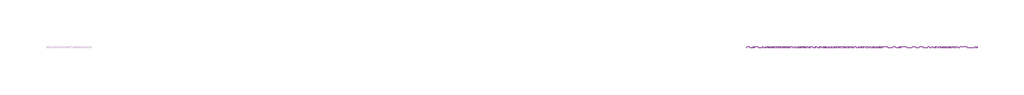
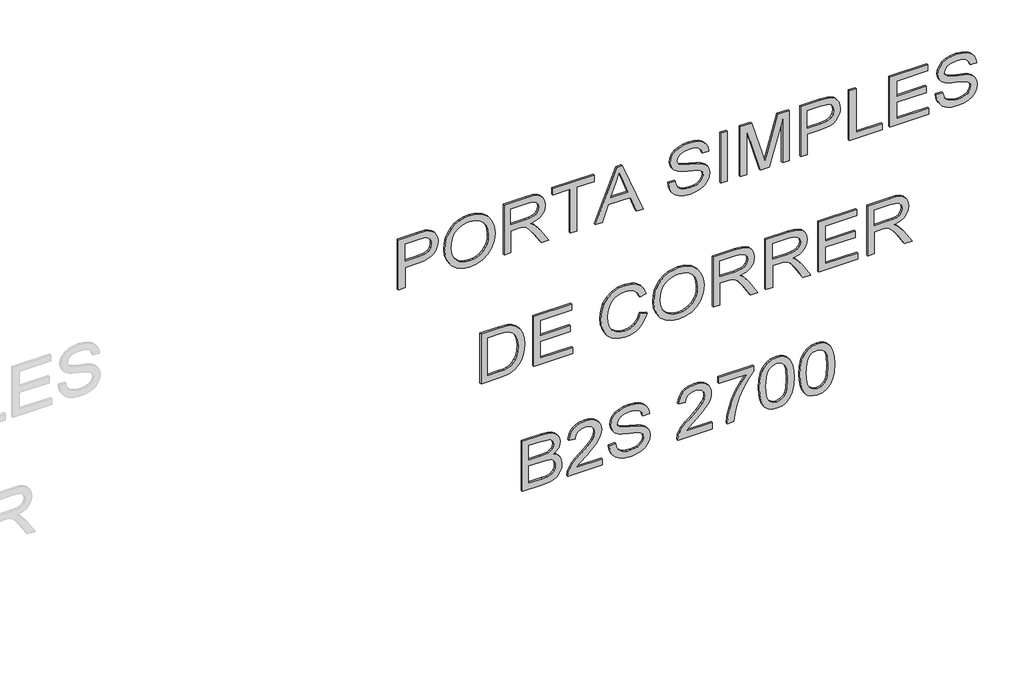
# One storey, part 13 of 13: 1 proxy.
"""IFC4 building model written with IfcOpenShell, lengths in millimetres."""

from ifc_helpers import new_model, si_unit, frame, origin, place, context, project, spatial, polyline, outline, extrude, element, save

model = new_model("IFC4")

# Units and contexts
model_context = context("Model", 3, world=origin())
ifc_project = project(units=[si_unit("LENGTHUNIT", "METRE", prefix="MILLI")], contexts=[model_context])

# Site, building, storey
site = spatial("IfcSite", under=ifc_project)
building = spatial("IfcBuilding", under=site)
storey = spatial("IfcBuildingStorey", under=building, Name="02 - Marelli - Planta Baixa - Portas", Elevation=-12000.0)

# Proxy
placement = place(None, origin())
element("IfcBuildingElementProxy", 1, Name="300mm Arial", ObjectType="300mm Arial", at=placement, inside=storey, context=model_context, shape_type="SweptSolid", body=[
    extrude(outline(polyline([(-5683.1381416, 67229.2612813), (-5683.1381416, 67266.9323976), (-5560.7070137, 67266.9323976), (-5560.7070137, 67343.525429), (-5559.0423476, 67372.7237631), (-5554.0483495, 67397.0430622), (-5545.7250194, 67416.4833264), (-5534.0723572, 67431.0445557), (-5520.0146665, 67441.6510534), (-5504.4762507, 67449.2271233), (-5487.4571099, 67453.7727652), (-5468.9572441, 67455.2879791), (-5447.5005267, 67453.043899), (-5427.8648252, 67446.3116585), (-5411.2181649, 67435.8914009), (-5398.7285712, 67422.5832698), (-5390.0005708, 67406.0561711), (-5384.6386908, 67385.9790112), (-5381.7692112, 67340.950255), (-5381.7692112, 67229.2612813), (-5683.1381416, 67229.2612813)]), holes=[polyline([(-5523.0358973, 67266.9323976), (-5419.4403275, 67266.9323976), (-5419.4403275, 67344.8498042), (-5422.0155015, 67382.5209205), (-5428.3430718, 67396.7487567), (-5439.085226, 67407.9415664), (-5453.3590475, 67415.1980387), (-5470.2816192, 67417.6168628), (-5492.556874, 67413.5149786), (-5509.2035343, 67401.2093258), (-5519.5778066, 67379.1364061), (-5523.0358973, 67345.732721), (-5523.0358973, 67266.9323976)])]), frame((0.0, 8778.3159498, 0.0), z_axis=(0.0, 1.0, 0.0), x_axis=(0.0, 0.0, 1.0)), (0.0, 0.0, 1.0), 10.0),
    extrude(outline(polyline([(-5536.426802, 67492.9590954), (-5574.971638, 67497.2633148), (-5611.4379408, 67510.1759728), (-5643.1309747, 67531.4395521), (-5667.3560041, 67560.7965354), (-5682.7242744, 67596.4443007), (-5687.8470312, 67636.5802264), (-5683.211718, 67674.3892984), (-5669.3057786, 67709.531226), (-5646.3867303, 67739.4952145), (-5614.7120905, 67761.7704693), (-5576.2500279, 67775.5936353), (-5532.9687112, 67780.2013573), (-5490.2576116, 67775.8235615), (-5452.3289779, 67762.6901743), (-5420.7095204, 67741.2058658), (-5396.9259494, 67711.7753062), (-5382.0267286, 67676.3298759), (-5377.0603217, 67636.8009556), (-5379.7044735, 67606.5104718), (-5387.636929, 67579.1354528), (-5400.8576882, 67554.6758987), (-5419.3667511, 67533.1318093), (-5442.5479153, 67515.556247), (-5469.7849785, 67503.0022739), (-5501.0779408, 67495.4698901), (-5536.426802, 67492.9590954)]), holes=[polyline([(-5536.794684, 67530.6302117), (-5506.2581791, 67532.5937819), (-5480.4259653, 67538.4844923), (-5459.2980424, 67548.3023431), (-5442.8744106, 67562.0473341), (-5430.5618601, 67578.5146519), (-5421.7671811, 67596.499483), (-5416.4903738, 67616.0018273), (-5414.731438, 67637.0216848), (-5418.3826668, 67666.1855299), (-5429.3363532, 67692.3143486), (-5446.9303096, 67713.9734011), (-5470.5023484, 67729.7279475), (-5499.3259028, 67739.3296676), (-5532.6744056, 67742.530241), (-5559.212493, 67740.6609406), (-5582.5408101, 67735.0530394), (-5602.6593567, 67725.7065375), (-5619.5681329, 67712.6214348), (-5632.9590375, 67696.6392613), (-5642.5239694, 67678.6015473), (-5648.2629285, 67658.5082925), (-5650.1759149, 67636.3594972), (-5648.2813226, 67614.5831823), (-5642.5975458, 67594.7244524), (-5633.1245844, 67576.7833073), (-5619.8624385, 67560.7597472), (-5603.3031502, 67547.5780754), (-5583.9387616, 67538.1625956), (-5561.7692729, 67532.5133077), (-5536.794684, 67530.6302117)])]), frame((0.0, 8778.3159498, 0.0), z_axis=(0.0, 1.0, 0.0), x_axis=(0.0, 0.0, 1.0)), (0.0, 0.0, 1.0), 10.0),
    extrude(outline(polyline([(-5683.1381416, 67831.9991422), (-5683.1381416, 67869.6702585), (-5551.2892346, 67869.6702585), (-5551.2892346, 67915.1404731), (-5552.6136098, 67936.9926636), (-5559.7873087, 67954.9085168), (-5579.3218426, 67974.8109327), (-5620.6717789, 68003.1378464), (-5683.1381416, 68042.354067), (-5683.1381416, 68086.1320245), (-5601.4683387, 68035.8793439), (-5562.6935764, 68005.3451383), (-5546.580345, 67983.9344062), (-5536.5923489, 68021.0445025), (-5528.5771199, 68035.4263892), (-5518.547737, 68047.0261684), (-5493.9364315, 68062.3392564), (-5464.2483545, 68067.4436191), (-5440.3820101, 68064.3626074), (-5418.6677753, 68055.1195723), (-5401.1565923, 68040.7169922), (-5389.8994033, 68022.1573455), (-5383.8017592, 67996.7642908), (-5381.7692112, 67961.8614865), (-5381.7692112, 67831.9991422), (-5683.1381416, 67831.9991422)]), holes=[polyline([(-5513.6181183, 67869.6702585), (-5419.4403275, 67869.6702585), (-5419.4403275, 67963.4801673), (-5422.6960832, 67993.2878059), (-5432.4633501, 68013.8432124), (-5447.2706004, 68025.7901802), (-5465.6463061, 68029.7725028), (-5478.9544373, 68027.6847725), (-5491.2141048, 68021.4215815), (-5501.3492537, 68011.1392797), (-5508.2838293, 67996.994217), (-5512.284546, 67978.2046441), (-5513.6181183, 67953.9888118), (-5513.6181183, 67869.6702585)])]), frame((0.0, 8778.3159498, 0.0), z_axis=(0.0, 1.0, 0.0), x_axis=(0.0, 0.0, 1.0)), (0.0, 0.0, 1.0), 10.0),
    extrude(outline(polyline([(-5683.1381416, 68208.7103053), (-5683.1381416, 68246.3814216), (-5419.4403275, 68246.3814216), (-5419.4403275, 68345.2681019), (-5381.7692112, 68345.2681019), (-5381.7692112, 68109.823625), (-5419.4403275, 68109.823625), (-5419.4403275, 68208.7103053), (-5683.1381416, 68208.7103053)])), frame((0.0, 8778.3159498, 0.0), z_axis=(0.0, 1.0, 0.0), x_axis=(0.0, 0.0, 1.0)), (0.0, 0.0, 1.0), 10.0),
    extrude(outline(polyline([(-5683.1381416, 68352.5521654), (-5683.1381416, 68392.3569973), (-5588.9603509, 68426.790752), (-5588.9603509, 68550.9141372), (-5683.1381416, 68585.4214683), (-5683.1381416, 68625.2263002), (-5381.7692112, 68504.9288878), (-5381.7692112, 68472.8495778), (-5683.1381416, 68352.5521654)]), holes=[polyline([(-5551.2892346, 68440.623115), (-5470.7230776, 68470.127251), (-5419.4403275, 68488.8892328), (-5477.1978007, 68510.0056593), (-5551.2892346, 68537.1553506), (-5551.2892346, 68440.623115)])]), frame((0.0, 8778.3159498, 0.0), z_axis=(0.0, 1.0, 0.0), x_axis=(0.0, 0.0, 1.0)), (0.0, 0.0, 1.0), 10.0),
    extrude(outline(polyline([(-5579.5425718, 68769.0681603), (-5609.9664128, 68773.5379266), (-5637.0793159, 68785.3285445), (-5659.3361766, 68803.6950531), (-5675.1918906, 68827.8924913), (-5684.683246, 68858.2703471), (-5687.8470312, 68895.1781083), (-5684.9131723, 68925.2432643), (-5676.1115955, 68952.1630293), (-5662.0217151, 68974.5486487), (-5643.2229452, 68991.011368), (-5621.3799517, 69001.1373199), (-5598.1574008, 69004.5126372), (-5575.4406876, 69001.5787783), (-5555.5566657, 68992.7772016), (-5538.6892762, 68977.7952073), (-5525.0224601, 68956.3200959), (-5516.2116863, 68931.1937556), (-5506.1133256, 68889.6598783), (-5495.4815359, 68849.4135881), (-5485.0704754, 68828.1500087), (-5473.4270103, 68819.155294), (-5458.9508538, 68816.1570557), (-5441.9730997, 68820.3876986), (-5427.6808842, 68833.0796275), (-5417.9687995, 68855.0237885), (-5414.731438, 68887.011128), (-5418.0055877, 68918.2627035), (-5427.828037, 68940.7954757), (-5444.051633, 68955.2164499), (-5466.5292229, 68962.1326314), (-5466.5292229, 68999.8037477), (-5441.5684295, 68995.5547106), (-5419.3667511, 68984.8677387), (-5401.0646218, 68967.9819551), (-5387.8024759, 68945.1364832), (-5379.7458602, 68917.3246044), (-5377.0603217, 68885.5396), (-5379.6262986, 68856.2010109), (-5387.3242293, 68829.6951131), (-5399.97937, 68807.6129964), (-5417.4169765, 68791.5457502), (-5437.9907771, 68781.7508921), (-5460.0544998, 68778.4859394), (-5479.7913688, 68781.1254927), (-5497.5048869, 68789.0441526), (-5512.8639602, 68802.3338897), (-5525.5374949, 68821.0866744), (-5534.596589, 68844.1252844), (-5544.1155357, 68880.1317347), (-5558.4997217, 68934.9829401), (-5566.308017, 68951.0593833), (-5575.6062345, 68960.587527), (-5586.5047386, 68965.2780224), (-5599.1138939, 68966.8415209), (-5612.0541431, 68964.7537906), (-5624.387387, 68958.4905996), (-5635.1295413, 68947.9599775), (-5643.2965216, 68933.0699538), (-5648.4560666, 68914.6942481), (-5650.1759149, 68893.7065803), (-5647.9042436, 68869.867827), (-5641.0892296, 68848.5306713), (-5630.5861986, 68831.0746706), (-5617.2504763, 68818.8793825), (-5600.4474662, 68811.0618901), (-5579.5425718, 68806.7392766), (-5579.5425718, 68769.0681603)])), frame((0.0, 8778.3159498, 0.0), z_axis=(0.0, 1.0, 0.0), x_axis=(0.0, 0.0, 1.0)), (0.0, 0.0, 1.0), 10.0),
    extrude(outline(polyline([(69103.3993175, 8778.3159498), (69065.7282012, 8778.3159498), (69065.7282012, 8788.3159498), (69103.3993175, 8788.3159498), (69103.3993175, 8778.3159498)])), frame((0.0, 0.0, -5683.1381416), z_axis=(0.0, 0.0, 1.0), x_axis=(1.0, 0.0, 0.0)), (0.0, 0.0, 1.0), 301.3689304),
    extrude(outline(polyline([(-5683.1381416, 69178.7415501), (-5683.1381416, 69216.4126664), (-5419.4403275, 69216.4126664), (-5683.1381416, 69292.1227811), (-5683.1381416, 69343.184802), (-5419.4403275, 69418.8949166), (-5683.1381416, 69418.8949166), (-5683.1381416, 69456.5660329), (-5381.7692112, 69456.5660329), (-5381.7692112, 69391.7452253), (-5590.5054553, 69331.1182725), (-5638.5508438, 69317.6537915), (-5594.1842752, 69305.2193801), (-5381.7692112, 69243.5623577), (-5381.7692112, 69178.7415501), (-5683.1381416, 69178.7415501)])), frame((0.0, 8778.3159498, 0.0), z_axis=(0.0, 1.0, 0.0), x_axis=(0.0, 0.0, 1.0)), (0.0, 0.0, 1.0), 10.0),
    extrude(outline(polyline([(-5683.1381416, 69522.4904864), (-5683.1381416, 69560.1616027), (-5560.7070137, 69560.1616027), (-5560.7070137, 69636.7546341), (-5559.0423476, 69665.9529682), (-5554.0483495, 69690.2722674), (-5545.7250194, 69709.7125316), (-5534.0723572, 69724.2737608), (-5520.0146665, 69734.8802586), (-5504.4762507, 69742.4563284), (-5487.4571099, 69747.0019703), (-5468.9572441, 69748.5171843), (-5447.5005267, 69746.2731041), (-5427.8648252, 69739.5408636), (-5411.2181649, 69729.1206061), (-5398.7285712, 69715.8124749), (-5390.0005708, 69699.2853763), (-5384.6386908, 69679.2082164), (-5381.7692112, 69634.1794602), (-5381.7692112, 69522.4904864), (-5683.1381416, 69522.4904864)]), holes=[polyline([(-5523.0358973, 69560.1616027), (-5419.4403275, 69560.1616027), (-5419.4403275, 69638.0790093), (-5422.0155015, 69675.7501256), (-5428.3430718, 69689.9779618), (-5439.085226, 69701.1707715), (-5453.3590475, 69708.4272438), (-5470.2816192, 69710.846068), (-5492.556874, 69706.7441837), (-5509.2035343, 69694.438531), (-5519.5778066, 69672.3656113), (-5523.0358973, 69638.9619261), (-5523.0358973, 69560.1616027)])]), frame((0.0, 8778.3159498, 0.0), z_axis=(0.0, 1.0, 0.0), x_axis=(0.0, 0.0, 1.0)), (0.0, 0.0, 1.0), 10.0),
    extrude(outline(polyline([(-5683.1381416, 69800.3149692), (-5683.1381416, 69988.6705507), (-5645.4670253, 69988.6705507), (-5645.4670253, 69837.9860855), (-5381.7692112, 69837.9860855), (-5381.7692112, 69800.3149692), (-5683.1381416, 69800.3149692)])), frame((0.0, 8778.3159498, 0.0), z_axis=(0.0, 1.0, 0.0), x_axis=(0.0, 0.0, 1.0)), (0.0, 0.0, 1.0), 10.0),
    extrude(outline(polyline([(-5683.1381416, 70031.0505566), (-5683.1381416, 70252.3683649), (-5645.4670253, 70252.3683649), (-5645.4670253, 70068.7216729), (-5546.580345, 70068.7216729), (-5546.580345, 70238.2416962), (-5508.9092287, 70238.2416962), (-5508.9092287, 70068.7216729), (-5419.4403275, 70068.7216729), (-5419.4403275, 70247.6594753), (-5381.7692112, 70247.6594753), (-5381.7692112, 70031.0505566), (-5683.1381416, 70031.0505566)])), frame((0.0, 8778.3159498, 0.0), z_axis=(0.0, 1.0, 0.0), x_axis=(0.0, 0.0, 1.0)), (0.0, 0.0, 1.0), 10.0),
    extrude(outline(polyline([(-5579.5425718, 70294.7483707), (-5609.9664128, 70299.2181369), (-5637.0793159, 70311.0087549), (-5659.3361766, 70329.3752635), (-5675.1918906, 70353.5727017), (-5684.683246, 70383.9505575), (-5687.8470312, 70420.8583187), (-5684.9131723, 70450.9234747), (-5676.1115955, 70477.8432397), (-5662.0217151, 70500.2288591), (-5643.2229452, 70516.6915784), (-5621.3799517, 70526.8175303), (-5598.1574008, 70530.1928476), (-5575.4406876, 70527.2589887), (-5555.5566657, 70518.457412), (-5538.6892762, 70503.4754177), (-5525.0224601, 70482.0003063), (-5516.2116863, 70456.873966), (-5506.1133256, 70415.3400887), (-5495.4815359, 70375.0937985), (-5485.0704754, 70353.8302191), (-5473.4270103, 70344.8355044), (-5458.9508538, 70341.8372661), (-5441.9730997, 70346.067909), (-5427.6808842, 70358.7598379), (-5417.9687995, 70380.7039989), (-5414.731438, 70412.6913384), (-5418.0055877, 70443.9429139), (-5427.828037, 70466.4756861), (-5444.051633, 70480.8966603), (-5466.5292229, 70487.8128418), (-5466.5292229, 70525.4839581), (-5441.5684295, 70521.234921), (-5419.3667511, 70510.5479491), (-5401.0646218, 70493.6621655), (-5387.8024759, 70470.8166936), (-5379.7458602, 70443.0048148), (-5377.0603217, 70411.2198104), (-5379.6262986, 70381.8812213), (-5387.3242293, 70355.3753235), (-5399.97937, 70333.2932068), (-5417.4169765, 70317.2259606), (-5437.9907771, 70307.4311025), (-5460.0544998, 70304.1661498), (-5479.7913688, 70306.8057031), (-5497.5048869, 70314.724363), (-5512.8639602, 70328.0141001), (-5525.5374949, 70346.7668848), (-5534.596589, 70369.8054948), (-5544.1155357, 70405.8119451), (-5558.4997217, 70460.6631505), (-5566.308017, 70476.7395937), (-5575.6062345, 70486.2677374), (-5586.5047386, 70490.9582328), (-5599.1138939, 70492.5217313), (-5612.0541431, 70490.434001), (-5624.387387, 70484.17081), (-5635.1295413, 70473.6401879), (-5643.2965216, 70458.7501642), (-5648.4560666, 70440.3744585), (-5650.1759149, 70419.3867907), (-5647.9042436, 70395.5480374), (-5641.0892296, 70374.2108817), (-5630.5861986, 70356.754881), (-5617.2504763, 70344.5595929), (-5600.4474662, 70336.7421005), (-5579.5425718, 70332.419487), (-5579.5425718, 70294.7483707)])), frame((0.0, 8778.3159498, 0.0), z_axis=(0.0, 1.0, 0.0), x_axis=(0.0, 0.0, 1.0)), (0.0, 0.0, 1.0), 10.0),
    extrude(outline(polyline([(-6414.9870487, 67700.1502351), (-6414.9870487, 67809.1168821), (-6409.8367008, 67857.5669409), (-6403.4815393, 67877.1106719), (-6394.7167508, 67893.5825882), (-6382.8985417, 67907.929986), (-6367.3831185, 67921.1001614), (-6347.729023, 67932.5412915), (-6323.4947965, 67941.7015532), (-6295.0299271, 67947.7164238), (-6262.6839027, 67949.7213807), (-6224.6081162, 67946.7599306), (-6191.0204901, 67937.8755804), (-6162.4728472, 67923.0315419), (-6139.5170107, 67902.1910269), (-6126.3284412, 67881.9207289), (-6117.9591258, 67857.8980347), (-6113.6181183, 67804.113687), (-6113.6181183, 67700.1502351), (-6414.9870487, 67700.1502351)]), holes=[polyline([(-6377.3159324, 67737.8213514), (-6151.2892346, 67737.8213514), (-6151.2892346, 67803.4514994), (-6152.7975508, 67835.1997156), (-6157.3224993, 67856.8679651), (-6169.9040635, 67878.1591355), (-6190.7261845, 67895.9738212), (-6221.0396609, 67908.0311536), (-6262.0952915, 67912.0502643), (-6293.0801526, 67909.9993222), (-6319.0802126, 67903.8464959), (-6340.187442, 67894.0148495), (-6356.4938115, 67880.9274476), (-6365.3045853, 67868.7505535), (-6371.8712789, 67852.9684159), (-6375.954769, 67832.0543245), (-6377.3159324, 67804.481569), (-6377.3159324, 67737.8213514)])]), frame((0.0, 8778.3159498, 0.0), z_axis=(0.0, 1.0, 0.0), x_axis=(0.0, 0.0, 1.0)), (0.0, 0.0, 1.0), 10.0),
    extrude(outline(polyline([(-6414.9870487, 68001.5191656), (-6414.9870487, 68222.8369739), (-6377.3159324, 68222.8369739), (-6377.3159324, 68039.1902819), (-6278.4292521, 68039.1902819), (-6278.4292521, 68208.7103053), (-6240.7581358, 68208.7103053), (-6240.7581358, 68039.1902819), (-6151.2892346, 68039.1902819), (-6151.2892346, 68218.1280843), (-6113.6181183, 68218.1280843), (-6113.6181183, 68001.5191656), (-6414.9870487, 68001.5191656)])), frame((0.0, 8778.3159498, 0.0), z_axis=(0.0, 1.0, 0.0), x_axis=(0.0, 0.0, 1.0)), (0.0, 0.0, 1.0), 10.0),
    extrude(outline(polyline([(-6307.8598117, 68608.965916), (-6340.1230627, 68596.7798249), (-6363.3364166, 68576.9969706), (-6377.3527206, 68550.7945755), (-6382.024822, 68519.349862), (-6378.5943223, 68492.3749147), (-6368.3028235, 68467.3681361), (-6351.0767491, 68446.5092269), (-6326.8425227, 68431.9778881), (-6296.7497755, 68423.4522229), (-6261.9481387, 68420.6103345), (-6233.5292546, 68423.0107645), (-6205.9564991, 68430.2120546), (-6181.5659228, 68443.3362447), (-6162.6935764, 68463.5053751), (-6150.6086529, 68490.0848493), (-6146.580345, 68522.4400707), (-6150.2131797, 68550.509467), (-6161.1116838, 68573.3549389), (-6179.9564391, 68591.1972156), (-6207.428027, 68604.2570265), (-6198.4517064, 68641.9281428), (-6160.6334373, 68625.2906795), (-6145.3111522, 68613.4885653), (-6132.3801, 68599.3641959), (-6122.1115938, 68583.1842859), (-6114.7769466, 68565.2155497), (-6108.9092287, 68523.9115987), (-6113.4433743, 68486.0565414), (-6127.0458111, 68451.5124221), (-6149.3854453, 68422.3853651), (-6180.131183, 68400.7814949), (-6218.0782108, 68387.3997874), (-6262.0217151, 68382.9392182), (-6303.6843511, 68386.8847526), (-6342.5878721, 68398.7213558), (-6375.6788575, 68418.1087369), (-6399.9038869, 68444.7066052), (-6414.7479254, 68479.4070744), (-6419.6959383, 68523.1022583), (-6418.0611626, 68545.5246659), (-6413.1568358, 68566.1444518), (-6404.9829577, 68584.9616158), (-6393.5395284, 68601.9761581), (-6378.9828977, 68616.8523863), (-6361.4694155, 68629.254608), (-6340.9990817, 68639.1828234), (-6317.5718964, 68646.6370323), (-6307.8598117, 68608.965916)])), frame((0.0, 8778.3159498, 0.0), z_axis=(0.0, 1.0, 0.0), x_axis=(0.0, 0.0, 1.0)), (0.0, 0.0, 1.0), 10.0),
    extrude(outline(polyline([(-6268.275709, 68684.3081486), (-6306.8205451, 68688.612368), (-6343.2868479, 68701.525026), (-6374.9798817, 68722.7886053), (-6399.2049111, 68752.1455885), (-6414.5731815, 68787.7933539), (-6419.6959383, 68827.9292795), (-6415.0606251, 68865.7383516), (-6401.1546857, 68900.8802792), (-6378.2356374, 68930.8442677), (-6346.5609976, 68953.1195225), (-6308.098935, 68966.9426885), (-6264.8176183, 68971.5504105), (-6222.1065186, 68967.1726147), (-6184.1778849, 68954.0392275), (-6152.5584275, 68932.554919), (-6128.7748565, 68903.1243594), (-6113.8756357, 68867.6789291), (-6108.9092287, 68828.1500087), (-6111.5533806, 68797.859525), (-6119.4858361, 68770.484506), (-6132.7065953, 68746.0249518), (-6151.2156582, 68724.4808625), (-6174.3968224, 68706.9053002), (-6201.6338856, 68694.3513271), (-6232.9268478, 68686.8189432), (-6268.275709, 68684.3081486)]), holes=[polyline([(-6268.643591, 68721.9792649), (-6238.1070862, 68723.9428351), (-6212.2748723, 68729.8335455), (-6191.1469495, 68739.6513963), (-6174.7233177, 68753.3963873), (-6162.4107671, 68769.8637051), (-6153.6160882, 68787.8485362), (-6148.3392808, 68807.3508804), (-6146.580345, 68828.3707379), (-6150.2315738, 68857.5345831), (-6161.1852602, 68883.6634018), (-6178.7792167, 68905.3224543), (-6202.3512555, 68921.0770007), (-6231.1748098, 68930.6787208), (-6264.5233127, 68933.8792942), (-6291.0614001, 68932.0099938), (-6314.3897171, 68926.4020926), (-6334.5082637, 68917.0555907), (-6351.41704, 68903.9704879), (-6364.8079446, 68887.9883145), (-6374.3728765, 68869.9506004), (-6380.1118356, 68849.8573457), (-6382.024822, 68827.7085503), (-6380.1302297, 68805.9322355), (-6374.4464529, 68786.0735055), (-6364.9734915, 68768.1323605), (-6351.7113455, 68752.1088003), (-6335.1520572, 68738.9271286), (-6315.7876687, 68729.5116488), (-6293.61818, 68723.8623609), (-6268.643591, 68721.9792649)])]), frame((0.0, 8778.3159498, 0.0), z_axis=(0.0, 1.0, 0.0), x_axis=(0.0, 0.0, 1.0)), (0.0, 0.0, 1.0), 10.0),
    extrude(outline(polyline([(-6414.9870487, 69023.3481954), (-6414.9870487, 69061.0193117), (-6283.1381416, 69061.0193117), (-6283.1381416, 69106.4895263), (-6284.4625168, 69128.3417168), (-6291.6362157, 69146.25757), (-6311.1707497, 69166.1599859), (-6352.5206859, 69194.4868995), (-6414.9870487, 69233.7031202), (-6414.9870487, 69277.4810776), (-6333.3172458, 69227.2283971), (-6294.5424835, 69196.6941915), (-6278.4292521, 69175.2834594), (-6268.4412559, 69212.3935556), (-6260.426027, 69226.7754424), (-6250.3966441, 69238.3752216), (-6225.7853386, 69253.6883096), (-6196.0972616, 69258.7926723), (-6172.2309172, 69255.7116606), (-6150.5166824, 69246.4686255), (-6133.0054994, 69232.0660453), (-6121.7483104, 69213.5063987), (-6115.6506663, 69188.113344), (-6113.6181183, 69153.2105397), (-6113.6181183, 69023.3481954), (-6414.9870487, 69023.3481954)]), holes=[polyline([(-6245.4670253, 69061.0193117), (-6151.2892346, 69061.0193117), (-6151.2892346, 69154.8292205), (-6154.5449902, 69184.6368591), (-6164.3122572, 69205.1922656), (-6179.1195075, 69217.1392334), (-6197.4952132, 69221.121556), (-6210.8033443, 69219.0338257), (-6223.0630118, 69212.7706347), (-6233.1981608, 69202.4883329), (-6240.1327364, 69188.3432702), (-6244.1334531, 69169.5536973), (-6245.4670253, 69145.337865), (-6245.4670253, 69061.0193117)])]), frame((0.0, 8778.3159498, 0.0), z_axis=(0.0, 1.0, 0.0), x_axis=(0.0, 0.0, 1.0)), (0.0, 0.0, 1.0), 10.0),
    extrude(outline(polyline([(-6414.9870487, 69324.7171258), (-6414.9870487, 69362.3882421), (-6283.1381416, 69362.3882421), (-6283.1381416, 69407.8584567), (-6284.4625168, 69429.7106472), (-6291.6362157, 69447.6265004), (-6311.1707497, 69467.5289164), (-6352.5206859, 69495.85583), (-6414.9870487, 69535.0720507), (-6414.9870487, 69578.8500081), (-6333.3172458, 69528.5973276), (-6294.5424835, 69498.063122), (-6278.4292521, 69476.6523898), (-6268.4412559, 69513.7624861), (-6260.426027, 69528.1443728), (-6250.3966441, 69539.744152), (-6225.7853386, 69555.0572401), (-6196.0972616, 69560.1616027), (-6172.2309172, 69557.080591), (-6150.5166824, 69547.8375559), (-6133.0054994, 69533.4349758), (-6121.7483104, 69514.8753291), (-6115.6506663, 69489.4822744), (-6113.6181183, 69454.5794701), (-6113.6181183, 69324.7171258), (-6414.9870487, 69324.7171258)]), holes=[polyline([(-6245.4670253, 69362.3882421), (-6151.2892346, 69362.3882421), (-6151.2892346, 69456.1981509), (-6154.5449902, 69486.0057896), (-6164.3122572, 69506.561196), (-6179.1195075, 69518.5081638), (-6197.4952132, 69522.4904864), (-6210.8033443, 69520.4027561), (-6223.0630118, 69514.1395651), (-6233.1981608, 69503.8572634), (-6240.1327364, 69489.7122007), (-6244.1334531, 69470.9226278), (-6245.4670253, 69446.7067954), (-6245.4670253, 69362.3882421)])]), frame((0.0, 8778.3159498, 0.0), z_axis=(0.0, 1.0, 0.0), x_axis=(0.0, 0.0, 1.0)), (0.0, 0.0, 1.0), 10.0),
    extrude(outline(polyline([(-6414.9870487, 69626.0860563), (-6414.9870487, 69847.4038646), (-6377.3159324, 69847.4038646), (-6377.3159324, 69663.7571726), (-6278.4292521, 69663.7571726), (-6278.4292521, 69833.277196), (-6240.7581358, 69833.277196), (-6240.7581358, 69663.7571726), (-6151.2892346, 69663.7571726), (-6151.2892346, 69842.694975), (-6113.6181183, 69842.694975), (-6113.6181183, 69626.0860563), (-6414.9870487, 69626.0860563)])), frame((0.0, 8778.3159498, 0.0), z_axis=(0.0, 1.0, 0.0), x_axis=(0.0, 0.0, 1.0)), (0.0, 0.0, 1.0), 10.0),
    extrude(outline(polyline([(-6414.9870487, 69903.910539), (-6414.9870487, 69941.5816553), (-6283.1381416, 69941.5816553), (-6283.1381416, 69987.0518699), (-6284.4625168, 70008.9040605), (-6291.6362157, 70026.8199136), (-6311.1707497, 70046.7223296), (-6352.5206859, 70075.0492432), (-6414.9870487, 70114.2654639), (-6414.9870487, 70158.0434213), (-6333.3172458, 70107.7907408), (-6294.5424835, 70077.2565352), (-6278.4292521, 70055.845803), (-6268.4412559, 70092.9558993), (-6260.426027, 70107.3377861), (-6250.3966441, 70118.9375652), (-6225.7853386, 70134.2506533), (-6196.0972616, 70139.3550159), (-6172.2309172, 70136.2740042), (-6150.5166824, 70127.0309691), (-6133.0054994, 70112.628389), (-6121.7483104, 70094.0687423), (-6115.6506663, 70068.6756876), (-6113.6181183, 70033.7728833), (-6113.6181183, 69903.910539), (-6414.9870487, 69903.910539)]), holes=[polyline([(-6245.4670253, 69941.5816553), (-6151.2892346, 69941.5816553), (-6151.2892346, 70035.3915641), (-6154.5449902, 70065.1992028), (-6164.3122572, 70085.7546092), (-6179.1195075, 70097.701577), (-6197.4952132, 70101.6838996), (-6210.8033443, 70099.5961693), (-6223.0630118, 70093.3329783), (-6233.1981608, 70083.0506766), (-6240.1327364, 70068.9056139), (-6244.1334531, 70050.116041), (-6245.4670253, 70025.9002086), (-6245.4670253, 69941.5816553)])]), frame((0.0, 8778.3159498, 0.0), z_axis=(0.0, 1.0, 0.0), x_axis=(0.0, 0.0, 1.0)), (0.0, 0.0, 1.0), 10.0),
    extrude(outline(polyline([(-7146.8359558, 67935.594712), (-7146.8359558, 68049.7117069), (-7141.6488197, 68098.0146129), (-7135.2292788, 68116.0500277), (-7126.3449287, 68130.7928987), (-7114.0760641, 68142.831837), (-7097.5029802, 68152.7554538), (-7078.0144315, 68159.4049209), (-7056.9991726, 68161.6214099), (-7031.7808618, 68158.3748513), (-7010.1310064, 68148.6351754), (-6993.1716464, 68132.8622349), (-6982.024822, 68111.5158821), (-6970.2801893, 68129.38575), (-6955.3533773, 68142.0868759), (-6938.2928498, 68149.6744421), (-6920.1470704, 68152.2036308), (-6900.4285954, 68149.1961955), (-6881.5930373, 68140.1738896), (-6865.5809734, 68125.8448858), (-6854.3329814, 68106.9173572), (-6847.6835144, 68082.2232783), (-6845.4670253, 68050.5946237), (-6845.4670253, 67935.594712), (-7146.8359558, 67935.594712)]), holes=[polyline([(-6967.8981533, 67973.2658283), (-6883.1381416, 67973.2658283), (-6883.1381416, 68036.8358371), (-6887.074479, 68085.2491077), (-6892.6754824, 68097.7387014), (-6901.6058178, 68106.9541454), (-6913.0469479, 68112.6379222), (-6926.1803351, 68114.5325145), (-6939.7091955, 68112.4999665), (-6950.7180642, 68106.4023224), (-6959.0781825, 68096.2947646), (-6964.6607918, 68082.2324753), (-6967.8981533, 68042.0597614), (-6967.8981533, 67973.2658283)]), polyline([(-7109.1648395, 67973.2658283), (-7005.5692696, 67973.2658283), (-7005.5692696, 68046.8422274), (-7006.8292655, 68073.6700219), (-7010.609253, 68093.3792998), (-7017.4978433, 68107.2944362), (-7028.0836477, 68116.7398065), (-7041.6217052, 68122.1476718), (-7057.3670546, 68123.9502936), (-7070.9235061, 68122.4143862), (-7082.7509122, 68117.8066642), (-7099.489543, 68102.1348913), (-7107.6933115, 68078.480079), (-7109.1648395, 68050.5210473), (-7109.1648395, 67973.2658283)])]), frame((0.0, 8778.3159498, 0.0), z_axis=(0.0, 1.0, 0.0), x_axis=(0.0, 0.0, 1.0)), (0.0, 0.0, 1.0), 10.0),
    extrude(outline(polyline([(-7109.1648395, 68392.3569973), (-7109.1648395, 68244.3948588), (-7089.9981875, 68261.391007), (-7053.761811, 68304.727506), (-7024.7451186, 68337.4230183), (-7002.1479671, 68358.6957947), (-6983.2204384, 68372.0407141), (-6965.2126148, 68380.9526554), (-6947.5082938, 68385.9742446), (-6929.491273, 68387.6481077), (-6912.338775, 68386.0961055), (-6896.6394109, 68381.440099), (-6882.3931806, 68373.6800882), (-6869.6000842, 68362.816073), (-6859.041871, 68349.2895119), (-6851.5002901, 68333.5418633), (-6846.9753415, 68315.5731271), (-6845.4670253, 68295.3833033), (-6850.8932848, 68257.5006549), (-6857.6761091, 68241.7668018), (-6867.1720631, 68228.1712628), (-6879.2523881, 68216.9715553), (-6893.7883254, 68208.4251967), (-6930.227037, 68199.2925262), (-6934.9359266, 68236.9636425), (-6913.2860712, 68241.0379356), (-6896.8969283, 68252.8193565), (-6886.5778383, 68271.0755005), (-6883.1381416, 68294.5739629), (-6886.6606118, 68316.9503853), (-6897.2280221, 68334.6363122), (-6912.9089921, 68346.1418216), (-6931.7721414, 68349.9769914), (-6952.8149915, 68345.9118954), (-6974.4464529, 68333.7166072), (-7001.0995034, 68309.3260309), (-7037.2071212, 68268.6750705), (-7060.2641253, 68241.1758913), (-7080.8747141, 68221.5125987), (-7100.5655978, 68207.919359), (-7120.8634869, 68198.6303386), (-7146.8359558, 68194.5836366), (-7146.8359558, 68392.3569973), (-7109.1648395, 68392.3569973)])), frame((0.0, 8778.3159498, 0.0), z_axis=(0.0, 1.0, 0.0), x_axis=(0.0, 0.0, 1.0)), (0.0, 0.0, 1.0), 10.0),
    extrude(outline(polyline([(-7043.2403859, 68430.0281136), (-7073.6642269, 68434.4978798), (-7100.77713, 68446.2884977), (-7123.0339907, 68464.6550064), (-7138.8897047, 68488.8524446), (-7148.3810602, 68519.2303003), (-7151.5448453, 68556.1380615), (-7148.6109864, 68586.2032176), (-7139.8094097, 68613.1229826), (-7125.7195293, 68635.508602), (-7106.9207593, 68651.9713212), (-7085.0777658, 68662.0972732), (-7061.8552149, 68665.4725905), (-7039.1385017, 68662.5387316), (-7019.2544799, 68653.7371548), (-7002.3870904, 68638.7551606), (-6988.7202743, 68617.2800491), (-6979.9095005, 68592.1537088), (-6969.8111397, 68550.6198316), (-6959.1793501, 68510.3735413), (-6948.7682896, 68489.109962), (-6937.1248244, 68480.1152472), (-6922.6486679, 68477.1170089), (-6905.6709139, 68481.3476519), (-6891.3786983, 68494.0395807), (-6881.6666137, 68515.9837417), (-6878.4292521, 68547.9710812), (-6881.7034019, 68579.2226567), (-6891.5258511, 68601.7554289), (-6907.7494471, 68616.1764031), (-6930.227037, 68623.0925846), (-6930.227037, 68660.7637009), (-6905.2662437, 68656.5146639), (-6883.0645652, 68645.8276919), (-6864.762436, 68628.9419083), (-6851.5002901, 68606.0964364), (-6843.4436744, 68578.2845576), (-6840.7581358, 68546.4995532), (-6843.3241127, 68517.1609641), (-6851.0220435, 68490.6550664), (-6863.6771841, 68468.5729496), (-6881.1147907, 68452.5057035), (-6901.6885913, 68442.7108453), (-6923.7523139, 68439.4458926), (-6943.489183, 68442.0854459), (-6961.202701, 68450.0041059), (-6976.5617743, 68463.293843), (-6989.2353091, 68482.0466277), (-6998.2944032, 68505.0852376), (-7007.8133498, 68541.0916879), (-7022.1975358, 68595.9428934), (-7030.0058312, 68612.0193366), (-7039.3040486, 68621.5474802), (-7050.2025527, 68626.2379757), (-7062.8117081, 68627.8014742), (-7075.7519573, 68625.7137438), (-7088.0852012, 68619.4505529), (-7098.8273554, 68608.9199308), (-7106.9943357, 68594.029907), (-7112.1538807, 68575.6542013), (-7113.873729, 68554.6665335), (-7111.6020577, 68530.8277802), (-7104.7870437, 68509.4906245), (-7094.2840128, 68492.0346238), (-7080.9482905, 68479.8393357), (-7064.1452803, 68472.0218433), (-7043.2403859, 68467.6992299), (-7043.2403859, 68430.0281136)])), frame((0.0, 8778.3159498, 0.0), z_axis=(0.0, 1.0, 0.0), x_axis=(0.0, 0.0, 1.0)), (0.0, 0.0, 1.0), 10.0),
    extrude(outline(polyline([(-7109.1648395, 69018.6393058), (-7109.1648395, 68870.6771674), (-7089.9981875, 68887.6733156), (-7053.761811, 68931.0098146), (-7024.7451186, 68963.7053269), (-7002.1479671, 68984.9781033), (-6983.2204384, 68998.3230227), (-6965.2126148, 69007.234964), (-6947.5082938, 69012.2565532), (-6929.491273, 69013.9304163), (-6912.338775, 69012.3784141), (-6896.6394109, 69007.7224076), (-6882.3931806, 68999.9623968), (-6869.6000842, 68989.0983816), (-6859.041871, 68975.5718205), (-6851.5002901, 68959.8241719), (-6846.9753415, 68941.8554357), (-6845.4670253, 68921.6656119), (-6850.8932848, 68883.7829635), (-6857.6761091, 68868.0491104), (-6867.1720631, 68854.4535714), (-6879.2523881, 68843.2538639), (-6893.7883254, 68834.7075053), (-6930.227037, 68825.5748348), (-6934.9359266, 68863.2459511), (-6913.2860712, 68867.3202442), (-6896.8969283, 68879.1016651), (-6886.5778383, 68897.3578091), (-6883.1381416, 68920.8562715), (-6886.6606118, 68943.2326939), (-6897.2280221, 68960.9186208), (-6912.9089921, 68972.4241302), (-6931.7721414, 68976.2593), (-6952.8149915, 68972.1942039), (-6974.4464529, 68959.9989158), (-7001.0995034, 68935.6083395), (-7037.2071212, 68894.9573791), (-7060.2641253, 68867.4581999), (-7080.8747141, 68847.7949073), (-7100.5655978, 68834.2016676), (-7120.8634869, 68824.9126472), (-7146.8359558, 68820.8659452), (-7146.8359558, 69018.6393058), (-7109.1648395, 69018.6393058)])), frame((0.0, 8778.3159498, 0.0), z_axis=(0.0, 1.0, 0.0), x_axis=(0.0, 0.0, 1.0)), (0.0, 0.0, 1.0), 10.0),
    extrude(outline(polyline([(-6887.8470312, 69056.3104221), (-6887.8470312, 69216.4126664), (-6923.1912939, 69187.0924714), (-6965.801226, 69159.4645336), (-7012.9361066, 69135.8005243), (-7061.8552149, 69118.3721147), (-7108.0060112, 69107.4736106), (-7146.8359558, 69103.3993175), (-7146.8359558, 69141.0704338), (-7104.1064621, 69146.073629), (-7064.9454237, 69155.0499497), (-7012.6050128, 69173.361276), (-6961.6809476, 69197.9817785), (-6916.3119006, 69225.8948249), (-6880.6365441, 69254.0837828), (-6850.1759149, 69254.0837828), (-6850.1759149, 69056.3104221), (-6887.8470312, 69056.3104221)])), frame((0.0, 8778.3159498, 0.0), z_axis=(0.0, 1.0, 0.0), x_axis=(0.0, 0.0, 1.0)), (0.0, 0.0, 1.0), 10.0),
    extrude(outline(polyline([(-6998.5795117, 69287.0460095), (-7038.0210601, 69288.9222077), (-7071.8799993, 69294.5508022), (-7100.1563291, 69303.9317931), (-7122.8500497, 69317.0651803), (-7135.4040228, 69330.7503905), (-7144.3711464, 69346.7900455), (-7149.7514206, 69365.1841453), (-7151.5448453, 69385.9326898), (-7147.4153699, 69416.384122), (-7135.0269437, 69441.0782009), (-7114.241611, 69460.1804735), (-7084.921416, 69473.8564867), (-7046.5421269, 69482.0786493), (-6998.5795117, 69484.8193701), (-6958.61833, 69483.1087188), (-6927.7622277, 69477.976765), (-6903.4636219, 69470.1408785), (-6883.1749298, 69460.3184292), (-6867.0341073, 69447.3138007), (-6855.17911, 69429.9313764), (-6847.8950465, 69409.1460437), (-6845.4670253, 69385.9326898), (-6849.5689096, 69355.6468046), (-6861.8745623, 69331.0079079), (-6882.5771216, 69311.8780442), (-6911.8697255, 69298.1192576), (-6950.3409851, 69289.8143215), (-6998.5795117, 69287.0460095)]), holes=[polyline([(-6998.5059353, 69324.7171258), (-6940.0126981, 69329.2788626), (-6918.9330598, 69334.9810335), (-6903.298075, 69342.9640728), (-6888.178125, 69361.9099955), (-6883.1381416, 69385.4912314), (-6888.8587067, 69410.3968425), (-6906.0204017, 69430.0785292), (-6920.3815951, 69437.5465337), (-6940.5829152, 69442.8808227), (-6998.5059353, 69447.1482538), (-7057.6705572, 69442.7336699), (-7077.9339574, 69437.21544), (-7091.9847503, 69429.4899181), (-7108.4014843, 69409.7714431), (-7113.873729, 69385.9326898), (-7108.4198784, 69362.0939365), (-7092.0583267, 69342.3754616), (-7078.0305264, 69334.6499397), (-7057.7625277, 69329.1317098), (-6998.5059353, 69324.7171258)])]), frame((0.0, 8778.3159498, 0.0), z_axis=(0.0, 1.0, 0.0), x_axis=(0.0, 0.0, 1.0)), (0.0, 0.0, 1.0), 10.0),
    extrude(outline(polyline([(-6998.5795117, 69517.7815969), (-7038.0210601, 69519.6577951), (-7071.8799993, 69525.2863896), (-7100.1563291, 69534.6673805), (-7122.8500497, 69547.8007677), (-7135.4040228, 69561.4859779), (-7144.3711464, 69577.5256329), (-7149.7514206, 69595.9197327), (-7151.5448453, 69616.6682772), (-7147.4153699, 69647.1197093), (-7135.0269437, 69671.8137883), (-7114.241611, 69690.9160609), (-7084.921416, 69704.592074), (-7046.5421269, 69712.8142366), (-6998.5795117, 69715.5549575), (-6958.61833, 69713.8443062), (-6927.7622277, 69708.7123524), (-6903.4636219, 69700.8764659), (-6883.1749298, 69691.0540166), (-6867.0341073, 69678.0493881), (-6855.17911, 69660.6669638), (-6847.8950465, 69639.8816311), (-6845.4670253, 69616.6682772), (-6849.5689096, 69586.3823919), (-6861.8745623, 69561.7434953), (-6882.5771216, 69542.6136316), (-6911.8697255, 69528.8548449), (-6950.3409851, 69520.5499089), (-6998.5795117, 69517.7815969)]), holes=[polyline([(-6998.5059353, 69555.4527132), (-6940.0126981, 69560.0144499), (-6918.9330598, 69565.7166209), (-6903.298075, 69573.6996602), (-6888.178125, 69592.6455829), (-6883.1381416, 69616.2268188), (-6888.8587067, 69641.1324299), (-6906.0204017, 69660.8141166), (-6920.3815951, 69668.2821211), (-6940.5829152, 69673.6164101), (-6998.5059353, 69677.8838412), (-7057.6705572, 69673.4692573), (-7077.9339574, 69667.9510273), (-7091.9847503, 69660.2255054), (-7108.4014843, 69640.5070305), (-7113.873729, 69616.6682772), (-7108.4198784, 69592.8295239), (-7092.0583267, 69573.111049), (-7078.0305264, 69565.3855271), (-7057.7625277, 69559.8672971), (-6998.5059353, 69555.4527132)])]), frame((0.0, 8778.3159498, 0.0), z_axis=(0.0, 1.0, 0.0), x_axis=(0.0, 0.0, 1.0)), (0.0, 0.0, 1.0), 10.0),
])

save(model, "model.ifc")
